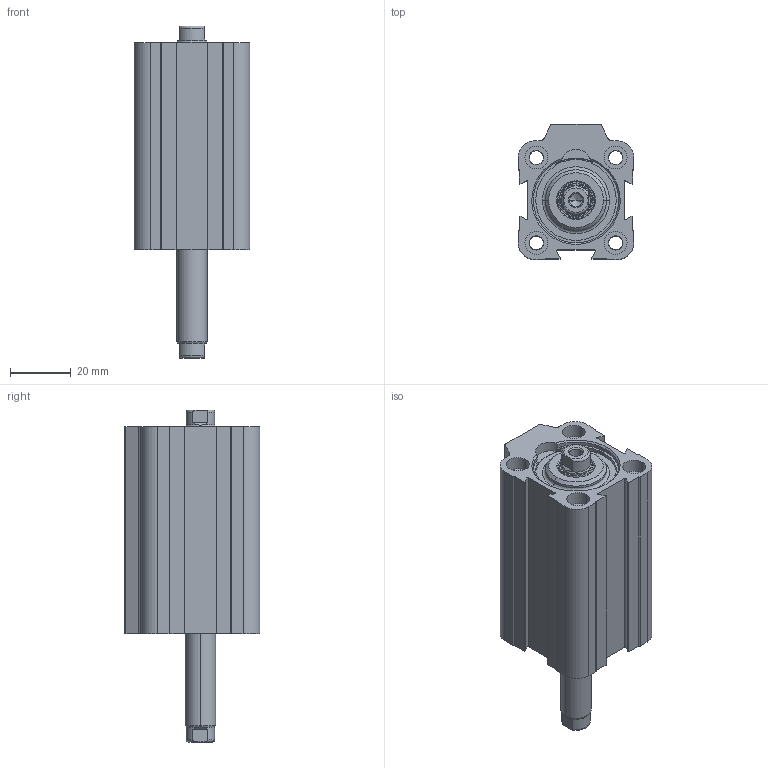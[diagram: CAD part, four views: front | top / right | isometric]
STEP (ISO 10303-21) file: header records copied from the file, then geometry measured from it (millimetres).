
FILE_DESCRIPTION (( 'STEP AP214' ), '1' );
FILE_NAME ('D11M40250030.STEP', '2021-11-02T13:57:36', ( '' ), ( '' ), 'SwSTEP 2.0', 'SolidWorks 2016', '' );
FILE_SCHEMA (( 'AUTOMOTIVE_DESIGN' ));
Length unit declared in the file: millimetre
Products named in the file (10): 22.005.1_WEB; TA Ø25 Corsa Breve WEB; 22.C01.000_22.C01.030; 000.502.7_22.025.030; 22.C03.000_22.C03.030; Pistone Ø25 corsa breve WEB; Seeger SB 28_Seeger SB 28; D11M40250030; 22.301.0
Assembly tree (9 placements, depth 3):
  D11M40250030
    000.502.7_22.025.030
    Pistone Ø25 corsa breve WEB
    22.C01.000_22.C01.030
    TA Ø25 Corsa Breve WEB
    TA Ø25 Corsa Breve WEB
      22.005.1_WEB
      22.301.0
      Seeger SB 28_Seeger SB 28
    22.C03.000_22.C03.030
Bounding box: 38 x 44.5 x 109 mm (x, y, z)
Volume: 79294.9 mm3; surface area: 37423 mm2
Topology: 10 solids, 10 shells, 402 faces, 910 edges, 555 vertices
Faces by surface type: cylinder 157, cone 107, plane 102, torus 36
Entity records: 12968 total; most frequent: DIRECTION 2184, CARTESIAN_POINT 2114, ORIENTED_EDGE 1808, EDGE_CURVE 904, AXIS2_PLACEMENT_3D 901, VERTEX_POINT 555, CIRCLE 486, EDGE_LOOP 459
